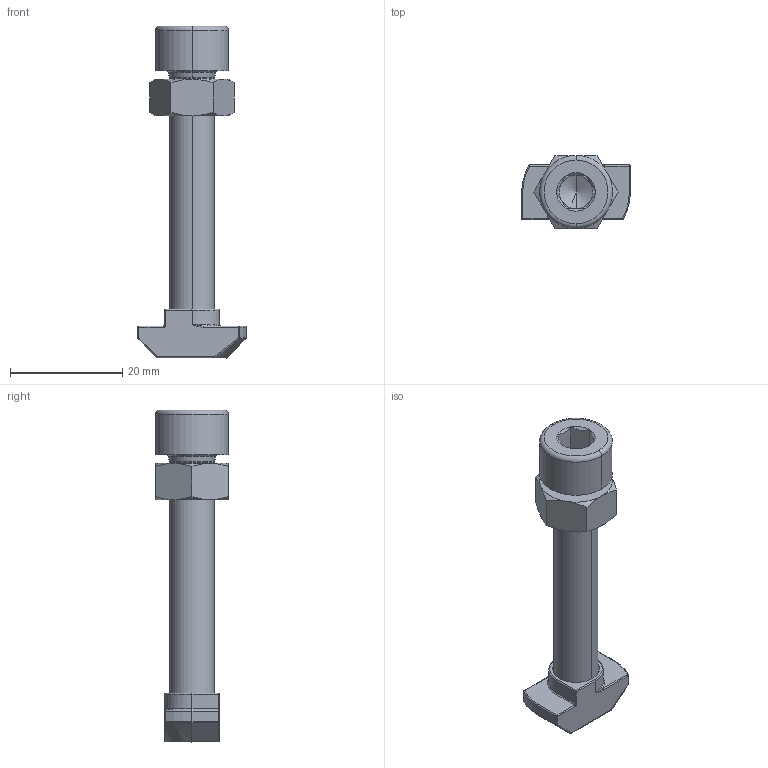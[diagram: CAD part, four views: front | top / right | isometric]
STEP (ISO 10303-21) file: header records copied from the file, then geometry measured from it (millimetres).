
FILE_DESCRIPTION((''),'2;1');
FILE_NAME('2011229_ASM','2012-09-07T',('rink'),(''),'PRO/ENGINEER BY PARAMETRIC TECHNOLOGY CORPORATION, 2011040','PRO/ENGINEER BY PARAMETRIC TECHNOLOGY CORPORATION, 2011040','');
FILE_SCHEMA(('AUTOMOTIVE_DESIGN_CC2 { 1 2 10303 214 -1 1 5 2 }'));
Length unit declared in the file: millimetre
Products named in the file (4): 2011228; 2011219; 2002915; 2011229_ASM
Assembly tree (3 placements, depth 2):
  2011229_ASM
    2011228
    2011219
    2002915
Bounding box: 19.4 x 13 x 59.2 mm (x, y, z)
Volume: 4107.1 mm3; surface area: 3565.8 mm2
Topology: 2 solids, 4 shells, 146 faces, 336 edges, 187 vertices
Faces by surface type: cylinder 40, plane 36, cone 34, torus 18, sphere 14, bspline 4
Entity records: 4940 total; most frequent: CARTESIAN_POINT 970, DIRECTION 762, ORIENTED_EDGE 622, AXIS2_PLACEMENT_3D 319, EDGE_CURVE 318, PRESENTATION_STYLE_ASSIGNMENT 190, STYLED_ITEM 190, CURVE_STYLE 189
